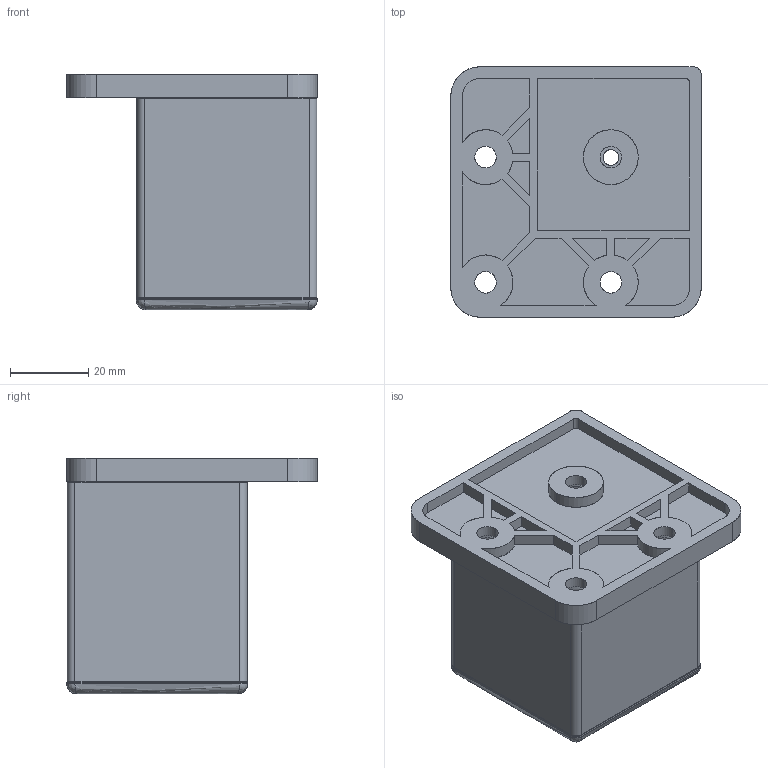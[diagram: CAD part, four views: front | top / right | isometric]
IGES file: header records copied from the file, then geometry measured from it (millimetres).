
Start section: Comment
Global section: file name: 8110-60.igs; native system: Parasolid(12.0); preprocessor: Pariges 4.4; author: Author; organization: Title; date: 20210511.094728; units: millimetre
Bounding box: 64 x 64 x 60.18 mm (x, y, z)
Surface area: 50235.3 mm2 (no closed solid volume)
Topology: 0 solids, 0 shells, 277 faces, 2716 edges, 2704 vertices
Faces by surface type: revolution 185, extrusion 88, bspline 4
